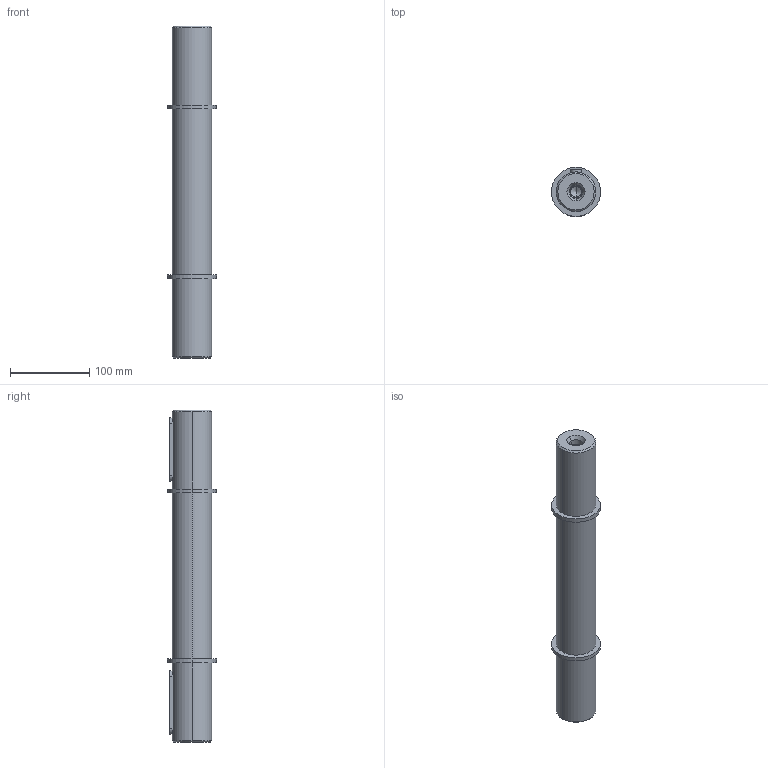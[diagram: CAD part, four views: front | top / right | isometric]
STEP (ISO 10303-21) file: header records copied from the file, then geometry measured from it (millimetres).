
FILE_DESCRIPTION(/* description */ (''),/* implementation_level */ '2;1');
FILE_NAME(/* name */ '5_ALBERO LENTO BISPORGENTE B103',/* time_stamp */ '2025-10-22T11:14:12+02:00',/* author */ (''),/* organization */ (''),/* preprocessor_version */ 'ST-DEVELOPER v19.2',/* originating_system */ 'Rhino 8.23',/* authorisation */ '');
FILE_SCHEMA (('CONFIG_CONTROL_DESIGN'));
Length unit declared in the file: millimetre
Products named in the file (2): Document; Albero 50x100-(1032)
Bounding box: 62 x 62 x 420 mm (x, y, z)
Volume: 826346.3 mm3; surface area: 79648.8 mm2
Topology: 1 solids, 1 shells, 52 faces, 111 edges, 67 vertices
Faces by surface type: cylinder 22, bspline 16, plane 14
Entity records: 1741 total; most frequent: CARTESIAN_POINT 566, ORIENTED_EDGE 214, DIRECTION 150, EDGE_CURVE 107, AXIS2_PLACEMENT_3D 93, VERTEX_POINT 67, EDGE_LOOP 62, B_SPLINE_CURVE_WITH_KNOTS 54
